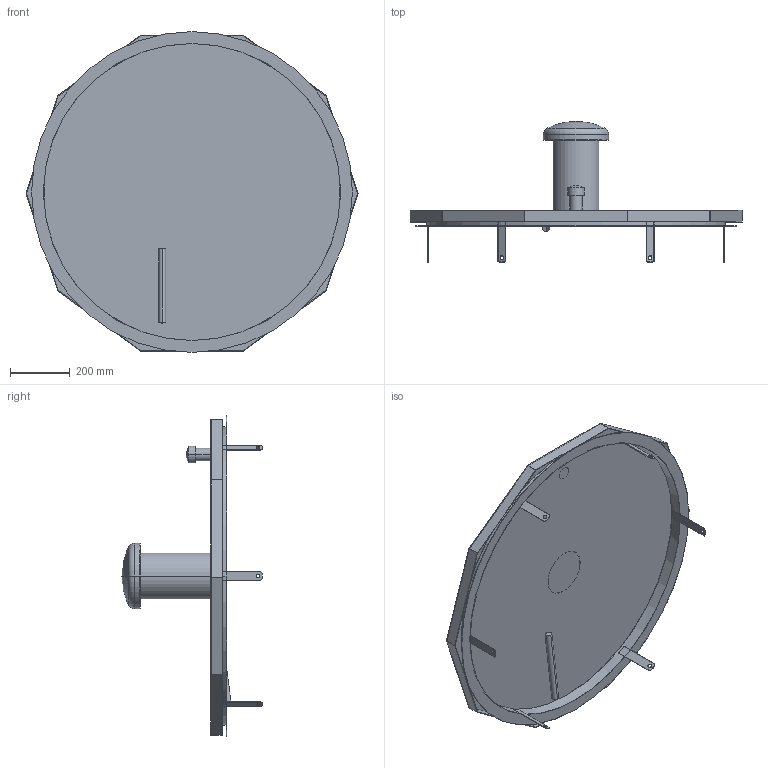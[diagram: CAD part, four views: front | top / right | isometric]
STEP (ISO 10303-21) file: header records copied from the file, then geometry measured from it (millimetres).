
FILE_DESCRIPTION((''),'2;1');
FILE_NAME('52287750','2024-09-10T09:01:29',('wep'),('HUBER SE'),'CREO PARAMETRIC BY PTC INC, 2022162','CREO PARAMETRIC BY PTC INC, 2022162','');
FILE_SCHEMA(('AUTOMOTIVE_DESIGN { 1 0 10303 214 1 1 1 1 }'));
Length unit declared in the file: millimetre
Products named in the file (1): 52287750
Bounding box: 1112.45 x 472 x 1075 mm (x, y, z)
Volume: 3246155 mm3; surface area: 3049255 mm2
Topology: 3 solids, 4 shells, 110 faces, 284 edges, 183 vertices
Faces by surface type: plane 62, cylinder 38, sphere 6, torus 4
Entity records: 3935 total; most frequent: DIRECTION 600, CARTESIAN_POINT 573, ORIENTED_EDGE 556, EDGE_CURVE 278, AXIS2_PLACEMENT_3D 212, VERTEX_POINT 183, VECTOR 176, LINE 176
